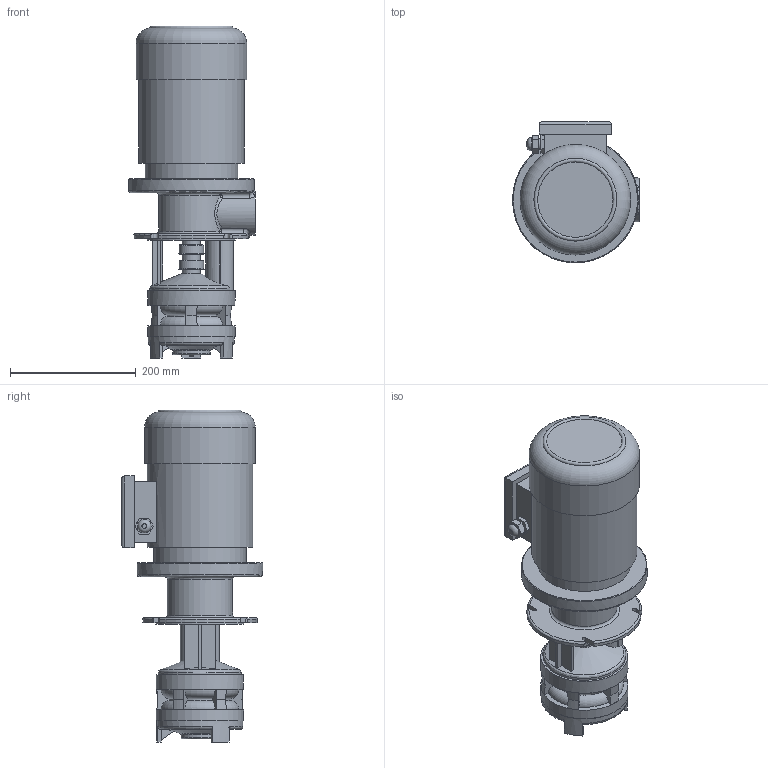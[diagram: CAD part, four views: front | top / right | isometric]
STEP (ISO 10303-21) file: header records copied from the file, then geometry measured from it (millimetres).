
FILE_DESCRIPTION(/* description */ ('Unknown'),/* implementation_level */ '2;1');
FILE_NAME(/* name */ 'gp2-190',/* time_stamp */ '2025-06-04T09:12:24+03:00',/* author */ ('Unknown'),/* organization */ ('Unknown'),/* preprocessor_version */ 'ST-DEVELOPER v16.7',/* originating_system */ 'DEX',/* authorisation */ $);
FILE_SCHEMA (('AUTOMOTIVE_DESIGN {1 0 10303 214 3 1 1}'));
Length unit declared in the file: millimetre
Products named in the file (1): gp2-190
Bounding box: 202 x 225 x 528.34 mm (x, y, z)
Volume: 9251693 mm3; surface area: 420635.3 mm2
Topology: 1 solids, 1 shells, 340 faces, 861 edges, 554 vertices
Faces by surface type: plane 122, bspline 85, cylinder 72, cone 33, torus 28
Full cylindrical faces by diameter (mm): 17 x1, 21.5 x1, 29 x3, 33 x2, 35 x2, 39 x2, 40.5 x2, 45 x1, 47 x1, 60 x1, 137 x1, 139 x2, 140 x1, 168.001 x1, 176 x1, 200 x1
Entity records: 12938 total; most frequent: CARTESIAN_POINT 5422, ORIENTED_EDGE 1608, DIRECTION 1357, EDGE_CURVE 804, VERTEX_POINT 546, AXIS2_PLACEMENT_3D 504, EDGE_LOOP 424, FACE_BOUND 424
